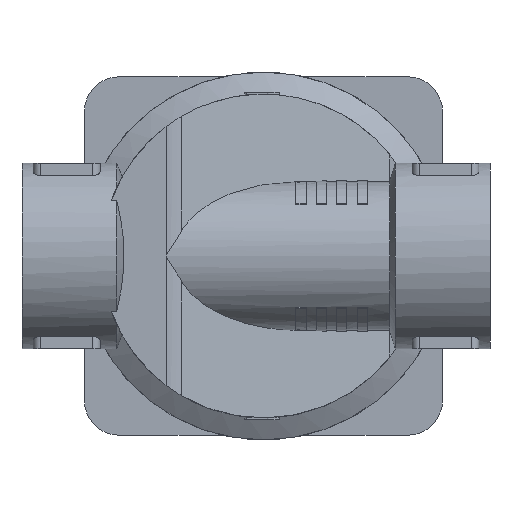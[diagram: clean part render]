
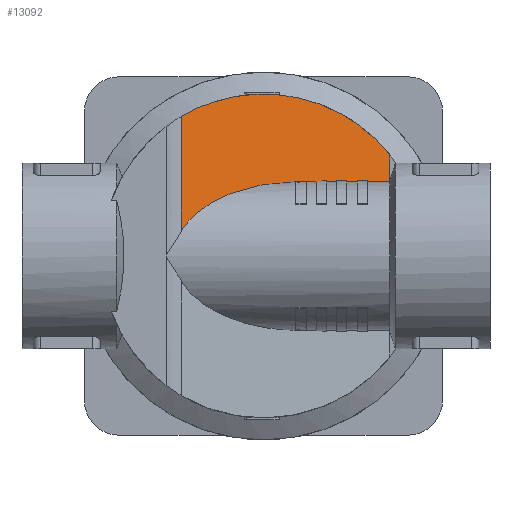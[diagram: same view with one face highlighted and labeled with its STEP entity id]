
A CAD part, front view. The second image highlights one B-rep face of the part: STEP entity #13092.
In plain terms, the highlighted planar face has unit normal (0.517, -0.856, 0).
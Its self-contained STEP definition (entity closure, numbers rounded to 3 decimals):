
#65=ELLIPSE('',#13714,50.947,43.6);
#73=ELLIPSE('',#13753,38.661,20.);
#112=B_SPLINE_CURVE_WITH_KNOTS('',3,(#18261,#18262,#18263,#18264),
 .UNSPECIFIED.,.F.,.F.,(4,4),(0.007,0.007),
 .UNSPECIFIED.);
#521=LINE('',#18470,#1679);
#522=LINE('',#18472,#1680);
#523=LINE('',#18473,#1681);
#1679=VECTOR('',#15270,1000.);
#1680=VECTOR('',#15271,1000.);
#1681=VECTOR('',#15272,1000.);
#3325=ORIENTED_EDGE('',*,*,#6132,.F.);
#3326=ORIENTED_EDGE('',*,*,#6133,.T.);
#3327=ORIENTED_EDGE('',*,*,#6036,.T.);
#3328=ORIENTED_EDGE('',*,*,#5947,.F.);
#3329=ORIENTED_EDGE('',*,*,#6134,.T.);
#3330=ORIENTED_EDGE('',*,*,#6013,.T.);
#5947=EDGE_CURVE('',#7424,#7425,#65,.F.);
#6013=EDGE_CURVE('',#7491,#7490,#73,.F.);
#6036=EDGE_CURVE('',#7512,#7425,#112,.T.);
#6132=EDGE_CURVE('',#7572,#7490,#521,.T.);
#6133=EDGE_CURVE('',#7572,#7512,#522,.T.);
#6134=EDGE_CURVE('',#7424,#7491,#523,.T.);
#7424=VERTEX_POINT('',#18024);
#7425=VERTEX_POINT('',#18026);
#7490=VERTEX_POINT('',#18201);
#7491=VERTEX_POINT('',#18203);
#7512=VERTEX_POINT('',#18265);
#7572=VERTEX_POINT('',#18471);
#8730=EDGE_LOOP('',(#3325,#3326,#3327,#3328,#3329,#3330));
#9336=FACE_BOUND('',#8730,.T.);
#9881=PLANE('',#13817);
#13092=ADVANCED_FACE('',(#9336),#9881,.T.);
#13714=AXIS2_PLACEMENT_3D('',#18025,#14961,#14962);
#13753=AXIS2_PLACEMENT_3D('',#18202,#15063,#15064);
#13817=AXIS2_PLACEMENT_3D('',#18469,#15268,#15269);
#14961=DIRECTION('',(0.517,-0.856,0.));
#14962=DIRECTION('',(0.856,0.517,0.));
#15063=DIRECTION('',(0.517,-0.856,0.));
#15064=DIRECTION('',(-0.856,-0.517,0.));
#15268=DIRECTION('',(0.517,-0.856,0.));
#15269=DIRECTION('',(0.856,0.517,0.));
#15270=DIRECTION('',(-0.856,-0.517,0.));
#15271=DIRECTION('',(0.,0.,1.));
#15272=DIRECTION('',(0.,0.,-1.));
#18024=CARTESIAN_POINT('',(-22.092,-18.846,37.589));
#18025=CARTESIAN_POINT('',(0.,-5.493,0.));
#18026=CARTESIAN_POINT('',(34.056,15.094,27.224));
#18201=CARTESIAN_POINT('',(9.086,0.,20.));
#18202=CARTESIAN_POINT('',(9.086,0.,0.));
#18203=CARTESIAN_POINT('',(-22.092,-18.846,6.694));
#18261=CARTESIAN_POINT('',(34.057,15.094,27.224));
#18262=CARTESIAN_POINT('',(34.057,15.094,27.224));
#18263=CARTESIAN_POINT('',(34.056,15.094,27.224));
#18264=CARTESIAN_POINT('',(34.056,15.094,27.224));
#18265=CARTESIAN_POINT('',(34.057,15.094,27.224));
#18469=CARTESIAN_POINT('',(43.,20.5,99.));
#18470=CARTESIAN_POINT('',(43.,20.5,20.));
#18471=CARTESIAN_POINT('',(34.057,15.094,20.));
#18472=CARTESIAN_POINT('',(34.057,15.094,99.));
#18473=CARTESIAN_POINT('',(-22.092,-18.846,99.));
